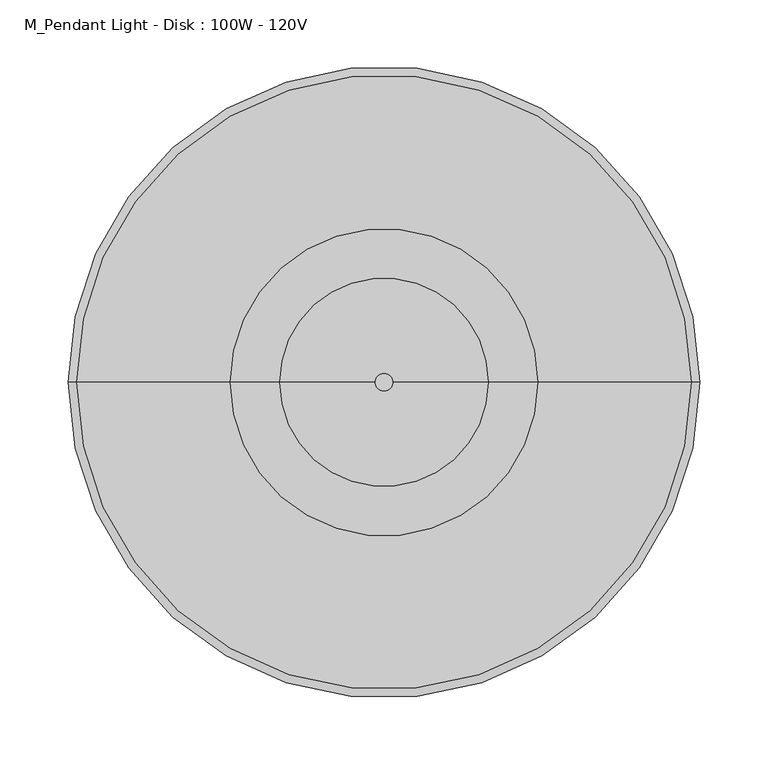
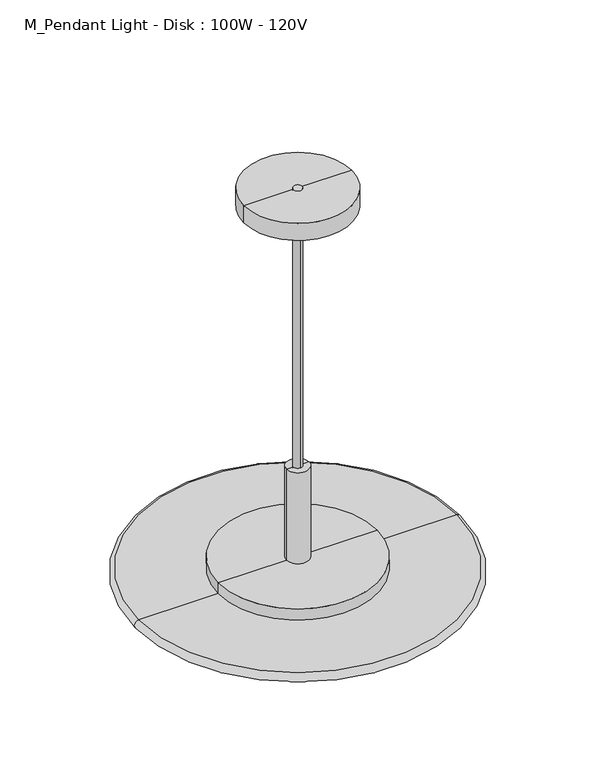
"""IFC4 building model written with IfcOpenShell, lengths in millimetres: light fixture geometry, M_Pendant Light - Disk : 100W - 120V."""

from ifc_helpers import new_model, si_unit, point, frame, origin, origin_2d, place, context, project, spatial, polyline, circle_curve, ellipse_curve, trimmed, segment, composite_curve, outline, extrude, source, transform, mapped, element, save
from ifc_brep_helpers import plane_surface, cylinder_surface, revolved_surface, advanced_brep


def m_pendant_light_disk_100w_120v_732193ba(model_context):
    return source(origin(), model_context, "Body", "SolidModel", [
        advanced_brep(
        [(15.875, 0.0, 1886.475253), (15.875, 0.0, 2022.55), (-15.875, 0.0, 2022.55), (-15.875, 0.0, 1886.475253), (112.5, 0.0, 1886.475253), (-112.5, 0.0, 1886.475253), (112.5, 0.0, 1851.1000062), (-112.5, 0.0, 1851.1000062), (38.1, 0.0, 1851.1000062), (-38.1, 0.0, 1851.1000062), (38.1, 0.0, 1870.15), (-38.1, 0.0, 1870.15), (0.0, 0.0, 1870.15), (0.0, 0.0, 2022.55)],
        [
            (0, 1),
            (1, 2, circle_curve(frame((0.0, 0.0, 2022.55), z_axis=(0.0, 0.0, -1.0), x_axis=(-1.0, 0.0, 0.0)), 15.875)),
            (2, 3),
            (3, 0, circle_curve(frame((0.0, 0.0, 1886.475253), z_axis=(0.0, 0.0, 1.0), x_axis=(-1.0, 0.0, 0.0)), 15.875)),
            (2, 1, circle_curve(frame((0.0, 0.0, 2022.55), z_axis=(0.0, 0.0, -1.0), x_axis=(-1.0, 0.0, 0.0)), 15.875)),
            (0, 3, circle_curve(frame((0.0, 0.0, 1886.475253), z_axis=(0.0, 0.0, 1.0), x_axis=(-1.0, 0.0, 0.0)), 15.875)),
            (4, 0),
            (3, 5),
            (5, 4, circle_curve(frame((0.0, 0.0, 1886.475253), z_axis=(0.0, 0.0, 1.0), x_axis=(-1.0, 0.0, 0.0)), 112.5)),
            (4, 5, circle_curve(frame((0.0, 0.0, 1886.475253), z_axis=(0.0, 0.0, 1.0), x_axis=(-1.0, 0.0, 0.0)), 112.5)),
            (6, 4),
            (5, 7),
            (7, 6, circle_curve(frame((0.0, 0.0, 1851.1000062), z_axis=(0.0, 0.0, 1.0), x_axis=(-1.0, 0.0, 0.0)), 112.5)),
            (6, 7, circle_curve(frame((0.0, 0.0, 1851.1000062), z_axis=(0.0, 0.0, 1.0), x_axis=(-1.0, 0.0, 0.0)), 112.5)),
            (8, 6),
            (7, 9),
            (9, 8, circle_curve(frame((0.0, 0.0, 1851.1000062), z_axis=(0.0, 0.0, 1.0), x_axis=(-1.0, 0.0, 0.0)), 38.1)),
            (8, 9, circle_curve(frame((0.0, 0.0, 1851.1000062), z_axis=(0.0, 0.0, 1.0), x_axis=(-1.0, 0.0, 0.0)), 38.1)),
            (10, 8),
            (9, 11),
            (11, 10, circle_curve(frame((0.0, 0.0, 1870.15), z_axis=(0.0, 0.0, 1.0), x_axis=(-1.0, 0.0, 0.0)), 38.1)),
            (10, 11, circle_curve(frame((0.0, 0.0, 1870.15), z_axis=(0.0, 0.0, 1.0), x_axis=(-1.0, 0.0, 0.0)), 38.1)),
            (12, 10),
            (11, 12),
            (1, 13),
            (13, 2),
        ],
        [
            cylinder_surface(frame((0.0, 0.0, 2046.6629221), z_axis=(0.0, 0.0, -1.0), x_axis=(-1.0, 0.0, 0.0)), 15.875),
            plane_surface(frame((0.0, 0.0, 1886.475253), z_axis=(0.0, 0.0, 1.0), x_axis=(-1.0, 0.0, 0.0))),
            cylinder_surface(frame((0.0, 0.0, 2046.6629221), z_axis=(0.0, 0.0, -1.0), x_axis=(-1.0, 0.0, 0.0)), 112.5),
            plane_surface(frame((0.0, 0.0, 1851.1000062), z_axis=(0.0, 0.0, -1.0), x_axis=(-1.0, 0.0, 0.0))),
            revolved_surface(polyline([(-38.1, 0.0, 1851.1000062), (-38.1, 0.0, 1870.15)]), (0.0, 0.0, 2046.6629221), (0.0, 0.0, -1.0)),
            plane_surface(frame((0.0, 0.0, 1870.15), z_axis=(0.0, 0.0, -1.0), x_axis=(-1.0, 0.0, 0.0))),
            plane_surface(frame((0.0, 0.0, 2022.55), z_axis=(0.0, 0.0, 1.0), x_axis=(-1.0, 0.0, 0.0))),
        ],
        [
            (0, [[1, 2, 3, 4]]),
            (0, [[-3, 5, -1, 6]]),
            (1, [[7, -4, 8, 9]]),
            (1, [[-8, -6, -7, 10]]),
            (2, [[11, -9, 12, 13]]),
            (2, [[-12, -10, -11, 14]]),
            (3, [[15, -13, 16, 17]]),
            (3, [[-16, -14, -15, 18]]),
            (4, [[19, -17, 20, 21]]),
            (4, [[-20, -18, -19, 22]]),
            (5, [[23, -21, 24]]),
            (5, [[-24, -22, -23]]),
            (6, [[25, 26, -2]]),
            (6, [[-26, -25, -5]]),
        ],
    ),
        extrude(outline(composite_curve([segment(trimmed(circle_curve(origin_2d(), 6.35), [point((0.0, -6.35))], [point((0.0, 6.35))], False, "CARTESIAN"), True, "CONTINUOUS"), segment(trimmed(circle_curve(origin_2d(), 6.35), [point((0.0, 6.35))], [point((0.0, -6.35))], False, "CARTESIAN"), True, "CONTINUOUS")], self_intersect=False)), frame((0.0, 0.0, 1851.1000062), z_axis=(0.0, 0.0, 1.0), x_axis=(1.0, 0.0, 0.0)), (0.0, 0.0, 1.0), 587.3),
        advanced_brep(
        [(0.0, 0.0, 1857.45), (225.0, 0.0, 1857.45), (-225.0, 0.0, 1857.45), (225.0, 0.0, 1870.15), (0.0, 0.0, 1870.15), (-225.0, 0.0, 1870.15)],
        [
            (0, 1),
            (1, 2, circle_curve(frame((0.0, 0.0, 1857.45), z_axis=(0.0, 0.0, -1.0), x_axis=(-1.0, 0.0, 0.0)), 225.0)),
            (2, 0),
            (2, 1, circle_curve(frame((0.0, 0.0, 1857.45), z_axis=(0.0, 0.0, -1.0), x_axis=(-1.0, 0.0, 0.0)), 225.0)),
            (3, 4),
            (4, 5),
            (5, 3, circle_curve(frame((0.0, 0.0, 1870.15), z_axis=(0.0, 0.0, 1.0), x_axis=(-1.0, 0.0, 0.0)), 225.0)),
            (3, 5, circle_curve(frame((0.0, 0.0, 1870.15), z_axis=(0.0, 0.0, 1.0), x_axis=(-1.0, 0.0, 0.0)), 225.0)),
            (1, 3, circle_curve(frame((225.0, 0.0, 1863.8), z_axis=(0.0, -1.0, 0.0), x_axis=(0.0, 0.0, -1.0)), 6.35)),
            (5, 2, circle_curve(frame((-225.0, 0.0, 1863.8), z_axis=(0.0, -1.0, 0.0), x_axis=(0.0, 0.0, -1.0)), 6.35)),
        ],
        [
            plane_surface(frame((0.0, 0.0, 1857.45), z_axis=(0.0, 0.0, -1.0), x_axis=(-1.0, 0.0, 0.0))),
            plane_surface(frame((0.0, 0.0, 1870.15), z_axis=(0.0, 0.0, 1.0), x_axis=(-1.0, 0.0, 0.0))),
            revolved_surface(trimmed(ellipse_curve(frame((-225.0, 0.0, 1863.8), z_axis=(0.0, -1.0, 0.0), x_axis=(0.0, 0.0, -1.0)), 6.35, 6.35), [point((-225.0, 0.0, 1870.15))], [point((-225.0, 0.0, 1857.45))], True, "CARTESIAN"), (0.0, 0.0, 1935.2510876), (0.0, 0.0, -1.0)),
        ],
        [
            (0, [[1, 2, 3]]),
            (0, [[-3, 4, -1]]),
            (1, [[5, 6, 7]]),
            (1, [[-6, -5, 8]]),
            (2, [[9, -7, 10, -2]]),
            (2, [[-10, -8, -9, -4]]),
        ],
    ),
        advanced_brep(
        [(76.2, 0.0, 2413.0000062), (76.2, 0.0, 2438.4000062), (-76.2, 0.0, 2438.4000062), (-76.2, 0.0, 2413.0000062), (0.0, 0.0, 2377.4673627), (0.0, 0.0, 2438.4000062)],
        [
            (0, 1),
            (1, 2, circle_curve(frame((0.0, 0.0, 2438.4000062), z_axis=(0.0, 0.0, -1.0), x_axis=(-1.0, 0.0, 0.0)), 76.2)),
            (2, 3),
            (3, 0, circle_curve(frame((0.0, 0.0, 2413.0000062), z_axis=(0.0, 0.0, 1.0), x_axis=(-1.0, 0.0, 0.0)), 76.2)),
            (2, 1, circle_curve(frame((0.0, 0.0, 2438.4000062), z_axis=(0.0, 0.0, -1.0), x_axis=(-1.0, 0.0, 0.0)), 76.2)),
            (0, 3, circle_curve(frame((0.0, 0.0, 2413.0000062), z_axis=(0.0, 0.0, 1.0), x_axis=(-1.0, 0.0, 0.0)), 76.2)),
            (4, 0),
            (3, 4),
            (1, 5),
            (5, 2),
        ],
        [
            cylinder_surface(frame((0.0, 0.0, 2514.6000062), z_axis=(0.0, 0.0, -1.0), x_axis=(-1.0, 0.0, 0.0)), 76.2),
            revolved_surface(polyline([(-76.2, 0.0, 2413.0000062), (0.0, 0.0, 2377.4673627)]), (0.0, 0.0, 2514.6000062), (0.0, 0.0, -1.0)),
            plane_surface(frame((0.0, 0.0, 2438.4000062), z_axis=(0.0, 0.0, 1.0), x_axis=(-1.0, 0.0, 0.0))),
        ],
        [
            (0, [[1, 2, 3, 4]]),
            (0, [[-3, 5, -1, 6]]),
            (1, [[7, -4, 8]]),
            (1, [[-8, -6, -7]]),
            (2, [[9, 10, -2]]),
            (2, [[-10, -9, -5]]),
        ],
    ),
    ])


if __name__ == "__main__":
    model = new_model("IFC4")
    model_context = context("Model", 3, world=origin())
    ifc_project = project(units=[si_unit("LENGTHUNIT", "METRE", prefix="MILLI")], contexts=[model_context])
    site = spatial("IfcSite", under=ifc_project)
    building = spatial("IfcBuilding", under=site)
    placement = place(None, origin())
    m_pendant_light_disk_100w_120v_shape = m_pendant_light_disk_100w_120v_732193ba(model_context)
    element("IfcLightFixture", 1, ObjectType="M_Pendant Light - Disk : 100W - 120V", at=placement, inside=building, context=model_context, shape_type="MappedRepresentation", body=[
        mapped(m_pendant_light_disk_100w_120v_shape, transform((0.0, 0.0, 0.0), x_axis=(1.0, 0.0, 0.0), y_axis=(0.0, 1.0, 0.0), z_axis=(0.0, 0.0, 1.0))),
    ])
    save(model, "model.ifc")
